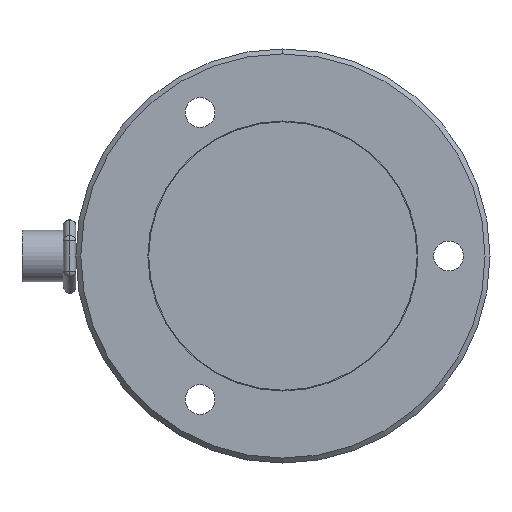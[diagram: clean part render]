
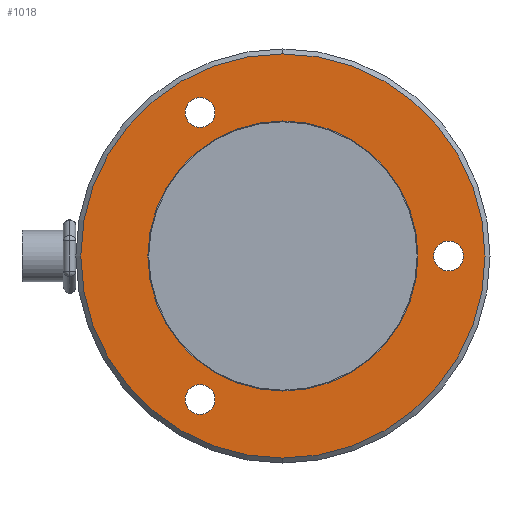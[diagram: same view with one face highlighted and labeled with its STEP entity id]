
A CAD part, front view. The second image highlights one B-rep face of the part: STEP entity #1018.
In plain terms, the highlighted planar face has unit normal (0, -1, 0).
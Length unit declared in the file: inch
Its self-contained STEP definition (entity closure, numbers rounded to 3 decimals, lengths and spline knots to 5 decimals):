
#9 = CIRCLE ( 'NONE', #658, 1.22 ) ;
#30 = CIRCLE ( 'NONE', #682, 0.09 ) ;
#33 = CIRCLE ( 'NONE', #657, 0.09 ) ;
#41 = CARTESIAN_POINT ( 'NONE',  ( 1., 0., 0. ) ) ;
#63 = VERTEX_POINT ( 'NONE', #92 ) ;
#65 = VERTEX_POINT ( 'NONE', #120 ) ;
#92 = CARTESIAN_POINT ( 'NONE',  ( 1., 0., -0.09 ) ) ;
#103 = VERTEX_POINT ( 'NONE', #106 ) ;
#106 = CARTESIAN_POINT ( 'NONE',  ( -0.5, 0., 0.95603 ) ) ;
#107 = VERTEX_POINT ( 'NONE', #109 ) ;
#109 = CARTESIAN_POINT ( 'NONE',  ( -0.5, 0., 0.77603 ) ) ;
#120 = CARTESIAN_POINT ( 'NONE',  ( 1., 0., 0.09 ) ) ;
#125 = CARTESIAN_POINT ( 'NONE',  ( -0.5, 0., -0.95603 ) ) ;
#143 = CARTESIAN_POINT ( 'NONE',  ( 0., 0., -0.815 ) ) ;
#147 = CARTESIAN_POINT ( 'NONE',  ( -0.5, 0., -0.77603 ) ) ;
#148 = CARTESIAN_POINT ( 'NONE',  ( 0., 0., -1.22 ) ) ;
#157 = CARTESIAN_POINT ( 'NONE',  ( 0., 0., 1.22 ) ) ;
#159 = CARTESIAN_POINT ( 'NONE',  ( 0., 0., 0.815 ) ) ;
#248 = DIRECTION ( 'NONE',  ( 0., 0., 1. ) ) ;
#249 = DIRECTION ( 'NONE',  ( 0., 1., 0. ) ) ;
#283 = VERTEX_POINT ( 'NONE', #159 ) ;
#298 = VERTEX_POINT ( 'NONE', #157 ) ;
#302 = VERTEX_POINT ( 'NONE', #143 ) ;
#303 = VERTEX_POINT ( 'NONE', #147 ) ;
#307 = VERTEX_POINT ( 'NONE', #125 ) ;
#312 = VERTEX_POINT ( 'NONE', #148 ) ;
#396 = ORIENTED_EDGE ( 'NONE', *, *, #972, .T. ) ;
#446 = ORIENTED_EDGE ( 'NONE', *, *, #961, .T. ) ;
#499 = ORIENTED_EDGE ( 'NONE', *, *, #986, .F. ) ;
#500 = ORIENTED_EDGE ( 'NONE', *, *, #988, .F. ) ;
#504 = ORIENTED_EDGE ( 'NONE', *, *, #955, .T. ) ;
#507 = ORIENTED_EDGE ( 'NONE', *, *, #985, .T. ) ;
#516 = ORIENTED_EDGE ( 'NONE', *, *, #982, .T. ) ;
#526 = ORIENTED_EDGE ( 'NONE', *, *, #958, .T. ) ;
#528 = EDGE_LOOP ( 'NONE', ( #396, #446 ) ) ;
#530 = ORIENTED_EDGE ( 'NONE', *, *, #983, .T. ) ;
#532 = ORIENTED_EDGE ( 'NONE', *, *, #596, .T. ) ;
#536 = EDGE_LOOP ( 'NONE', ( #526, #530 ) ) ;
#549 = EDGE_LOOP ( 'NONE', ( #499, #500 ) ) ;
#557 = EDGE_LOOP ( 'NONE', ( #532, #507 ) ) ;
#561 = EDGE_LOOP ( 'NONE', ( #504, #516 ) ) ;
#596 = EDGE_CURVE ( 'NONE', #65, #63, #813, .T. ) ;
#600 = AXIS2_PLACEMENT_3D ( 'NONE', #41, #249, #248 ) ;
#623 = AXIS2_PLACEMENT_3D ( 'NONE', #1349, #1363, #1355 ) ;
#632 = AXIS2_PLACEMENT_3D ( 'NONE', #1411, #1393, #1426 ) ;
#636 = AXIS2_PLACEMENT_3D ( 'NONE', #1422, #1423, #1413 ) ;
#657 = AXIS2_PLACEMENT_3D ( 'NONE', #1377, #1347, #1342 ) ;
#658 = AXIS2_PLACEMENT_3D ( 'NONE', #1359, #1361, #1367 ) ;
#661 = AXIS2_PLACEMENT_3D ( 'NONE', #1384, #1387, #1389 ) ;
#673 = AXIS2_PLACEMENT_3D ( 'NONE', #1404, #1428, #1386 ) ;
#682 = AXIS2_PLACEMENT_3D ( 'NONE', #1131, #1130, #1123 ) ;
#685 = AXIS2_PLACEMENT_3D ( 'NONE', #1410, #1418, #1415 ) ;
#689 = AXIS2_PLACEMENT_3D ( 'NONE', #1507, #1483, #1506 ) ;
#813 = CIRCLE ( 'NONE', #600, 0.09 ) ;
#955 = EDGE_CURVE ( 'NONE', #103, #107, #30, .T. ) ;
#958 = EDGE_CURVE ( 'NONE', #303, #307, #33, .T. ) ;
#961 = EDGE_CURVE ( 'NONE', #312, #298, #1048, .T. ) ;
#972 = EDGE_CURVE ( 'NONE', #298, #312, #9, .T. ) ;
#982 = EDGE_CURVE ( 'NONE', #107, #103, #1172, .T. ) ;
#983 = EDGE_CURVE ( 'NONE', #307, #303, #1142, .T. ) ;
#985 = EDGE_CURVE ( 'NONE', #63, #65, #1173, .T. ) ;
#986 = EDGE_CURVE ( 'NONE', #302, #283, #1161, .T. ) ;
#988 = EDGE_CURVE ( 'NONE', #283, #302, #1175, .T. ) ;
#1018 = ADVANCED_FACE ( 'NONE', ( #1209, #1211, #1225, #1190, #1228 ), #1495, .F. ) ;
#1048 = CIRCLE ( 'NONE', #623, 1.22 ) ;
#1123 = DIRECTION ( 'NONE',  ( 1., 0., 0. ) ) ;
#1130 = DIRECTION ( 'NONE',  ( 0., 1., 0. ) ) ;
#1131 = CARTESIAN_POINT ( 'NONE',  ( -0.5, 0., 0.86603 ) ) ;
#1142 = CIRCLE ( 'NONE', #632, 0.09 ) ;
#1161 = CIRCLE ( 'NONE', #685, 0.815 ) ;
#1172 = CIRCLE ( 'NONE', #661, 0.09 ) ;
#1173 = CIRCLE ( 'NONE', #636, 0.09 ) ;
#1175 = CIRCLE ( 'NONE', #673, 0.815 ) ;
#1190 = FACE_BOUND ( 'NONE', #557, .T. ) ;
#1209 = FACE_OUTER_BOUND ( 'NONE', #528, .T. ) ;
#1211 = FACE_BOUND ( 'NONE', #549, .T. ) ;
#1225 = FACE_BOUND ( 'NONE', #561, .T. ) ;
#1228 = FACE_BOUND ( 'NONE', #536, .T. ) ;
#1342 = DIRECTION ( 'NONE',  ( 0., 0., 1. ) ) ;
#1347 = DIRECTION ( 'NONE',  ( 0., 1., 0. ) ) ;
#1349 = CARTESIAN_POINT ( 'NONE',  ( 0., 0., 0. ) ) ;
#1355 = DIRECTION ( 'NONE',  ( 0., 0., 1. ) ) ;
#1359 = CARTESIAN_POINT ( 'NONE',  ( 0., 0., 0. ) ) ;
#1361 = DIRECTION ( 'NONE',  ( 0., -1., 0. ) ) ;
#1363 = DIRECTION ( 'NONE',  ( 0., -1., 0. ) ) ;
#1367 = DIRECTION ( 'NONE',  ( 0., 0., 1. ) ) ;
#1377 = CARTESIAN_POINT ( 'NONE',  ( -0.5, 0., -0.86603 ) ) ;
#1384 = CARTESIAN_POINT ( 'NONE',  ( -0.5, 0., 0.86603 ) ) ;
#1386 = DIRECTION ( 'NONE',  ( 0., 0., -1. ) ) ;
#1387 = DIRECTION ( 'NONE',  ( 0., 1., 0. ) ) ;
#1389 = DIRECTION ( 'NONE',  ( 1., 0., 0. ) ) ;
#1393 = DIRECTION ( 'NONE',  ( 0., 1., 0. ) ) ;
#1404 = CARTESIAN_POINT ( 'NONE',  ( 0., 0., 0. ) ) ;
#1410 = CARTESIAN_POINT ( 'NONE',  ( 0., 0., 0. ) ) ;
#1411 = CARTESIAN_POINT ( 'NONE',  ( -0.5, 0., -0.86603 ) ) ;
#1413 = DIRECTION ( 'NONE',  ( 0., 0., 1. ) ) ;
#1415 = DIRECTION ( 'NONE',  ( 0., 0., -1. ) ) ;
#1418 = DIRECTION ( 'NONE',  ( 0., -1., 0. ) ) ;
#1422 = CARTESIAN_POINT ( 'NONE',  ( 1., 0., 0. ) ) ;
#1423 = DIRECTION ( 'NONE',  ( 0., 1., 0. ) ) ;
#1426 = DIRECTION ( 'NONE',  ( 0., 0., 1. ) ) ;
#1428 = DIRECTION ( 'NONE',  ( 0., -1., 0. ) ) ;
#1483 = DIRECTION ( 'NONE',  ( 0., 1., 0. ) ) ;
#1495 = PLANE ( 'NONE',  #689 ) ;
#1506 = DIRECTION ( 'NONE',  ( 0., 0., 1. ) ) ;
#1507 = CARTESIAN_POINT ( 'NONE',  ( 0., 0., 0. ) ) ;
